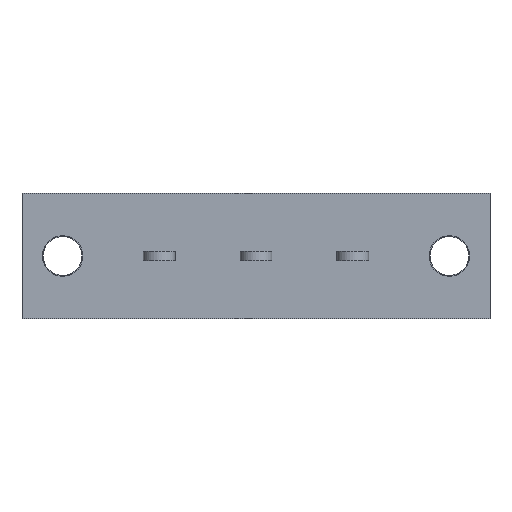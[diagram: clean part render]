
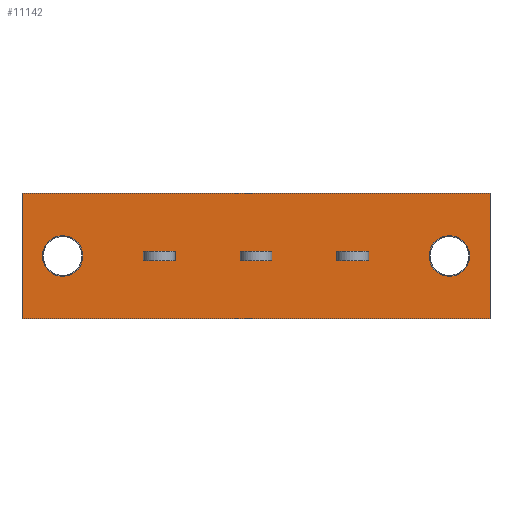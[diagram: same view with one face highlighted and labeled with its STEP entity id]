
A CAD part, front view. The second image highlights one B-rep face of the part: STEP entity #11142.
In plain terms, the highlighted planar face has unit normal (0, -1, 0).
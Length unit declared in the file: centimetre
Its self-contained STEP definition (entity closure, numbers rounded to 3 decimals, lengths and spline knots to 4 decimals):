
#925=VECTOR('',#12572,1.);
#1055=VECTOR('',#12870,1.);
#1059=VECTOR('',#12881,1.);
#1062=VECTOR('',#12897,1.);
#1063=VECTOR('',#12899,1.);
#1079=VECTOR('',#12924,1.);
#1080=VECTOR('',#12925,1.);
#1081=VECTOR('',#12926,1.);
#1082=VECTOR('',#12927,1.);
#1083=VECTOR('',#12928,1.);
#1084=VECTOR('',#12929,1.);
#1085=VECTOR('',#12930,1.);
#1086=VECTOR('',#12931,1.);
#1087=VECTOR('',#12932,1.);
#1088=VECTOR('',#12933,1.);
#1089=VECTOR('',#12934,1.);
#2223=LINE('',#15729,#925);
#2353=LINE('',#16137,#1055);
#2357=LINE('',#16149,#1059);
#2360=LINE('',#16161,#1062);
#2361=LINE('',#16164,#1063);
#2377=LINE('',#16203,#1079);
#2378=LINE('',#16206,#1080);
#2379=LINE('',#16208,#1081);
#2380=LINE('',#16210,#1082);
#2381=LINE('',#16211,#1083);
#2382=LINE('',#16214,#1084);
#2383=LINE('',#16216,#1085);
#2384=LINE('',#16218,#1086);
#2385=LINE('',#16219,#1087);
#2386=LINE('',#16221,#1088);
#2387=LINE('',#16223,#1089);
#3488=VERTEX_POINT('',#15727);
#3490=VERTEX_POINT('',#15730);
#3496=VERTEX_POINT('',#15744);
#3618=VERTEX_POINT('',#16138);
#3619=VERTEX_POINT('',#16139);
#3622=VERTEX_POINT('',#16150);
#3623=VERTEX_POINT('',#16162);
#3640=VERTEX_POINT('',#16202);
#3641=VERTEX_POINT('',#16204);
#3642=VERTEX_POINT('',#16205);
#3643=VERTEX_POINT('',#16207);
#3644=VERTEX_POINT('',#16209);
#3645=VERTEX_POINT('',#16212);
#3646=VERTEX_POINT('',#16213);
#3647=VERTEX_POINT('',#16215);
#3648=VERTEX_POINT('',#16217);
#3649=VERTEX_POINT('',#16220);
#3650=VERTEX_POINT('',#16222);
#4268=CIRCLE('',#18795,0.21);
#4309=CIRCLE('',#18922,0.21);
#4921=EDGE_CURVE('',#3490,#3488,#2223,.T.);
#4928=EDGE_CURVE('',#3496,#3496,#4268,.T.);
#5102=EDGE_CURVE('',#3618,#3619,#2353,.T.);
#5108=EDGE_CURVE('',#3622,#3618,#2357,.T.);
#5115=EDGE_CURVE('',#3623,#3622,#2360,.T.);
#5117=EDGE_CURVE('',#3619,#3623,#2361,.T.);
#5135=EDGE_CURVE('',#3640,#3640,#4309,.T.);
#5136=EDGE_CURVE('',#3641,#3642,#2377,.T.);
#5137=EDGE_CURVE('',#3642,#3643,#2378,.T.);
#5138=EDGE_CURVE('',#3643,#3644,#2379,.T.);
#5139=EDGE_CURVE('',#3644,#3641,#2380,.T.);
#5140=EDGE_CURVE('',#3645,#3646,#2381,.T.);
#5141=EDGE_CURVE('',#3646,#3647,#2382,.T.);
#5142=EDGE_CURVE('',#3647,#3648,#2383,.T.);
#5143=EDGE_CURVE('',#3648,#3645,#2384,.T.);
#5144=EDGE_CURVE('',#3649,#3490,#2385,.T.);
#5145=EDGE_CURVE('',#3650,#3488,#2386,.T.);
#5146=EDGE_CURVE('',#3650,#3649,#2387,.T.);
#7516=ORIENTED_EDGE('',*,*,#4928,.T.);
#7517=ORIENTED_EDGE('',*,*,#5135,.T.);
#7518=ORIENTED_EDGE('',*,*,#5108,.F.);
#7519=ORIENTED_EDGE('',*,*,#5115,.F.);
#7520=ORIENTED_EDGE('',*,*,#5117,.F.);
#7521=ORIENTED_EDGE('',*,*,#5102,.F.);
#7522=ORIENTED_EDGE('',*,*,#5136,.T.);
#7523=ORIENTED_EDGE('',*,*,#5137,.T.);
#7524=ORIENTED_EDGE('',*,*,#5138,.T.);
#7525=ORIENTED_EDGE('',*,*,#5139,.T.);
#7526=ORIENTED_EDGE('',*,*,#5140,.T.);
#7527=ORIENTED_EDGE('',*,*,#5141,.T.);
#7528=ORIENTED_EDGE('',*,*,#5142,.T.);
#7529=ORIENTED_EDGE('',*,*,#5143,.T.);
#7530=ORIENTED_EDGE('',*,*,#5144,.T.);
#7531=ORIENTED_EDGE('',*,*,#4921,.T.);
#7532=ORIENTED_EDGE('',*,*,#5145,.F.);
#7533=ORIENTED_EDGE('',*,*,#5146,.T.);
#9761=EDGE_LOOP('',(#7516));
#9762=EDGE_LOOP('',(#7517));
#9763=EDGE_LOOP('',(#7518,#7519,#7520,#7521));
#9764=EDGE_LOOP('',(#7522,#7523,#7524,#7525));
#9765=EDGE_LOOP('',(#7526,#7527,#7528,#7529));
#9766=EDGE_LOOP('',(#7530,#7531,#7532,#7533));
#10469=FACE_BOUND('',#9761,.T.);
#10470=FACE_BOUND('',#9762,.T.);
#10471=FACE_BOUND('',#9763,.T.);
#10472=FACE_BOUND('',#9764,.T.);
#10473=FACE_BOUND('',#9765,.T.);
#10474=FACE_BOUND('',#9766,.T.);
#11142=ADVANCED_FACE('',(#10469,#10470,#10471,#10472,#10473,#10474),#11706,
 .T.);
#11706=PLANE('',#18921);
#12572=DIRECTION('',(0.,0.,1.));
#12581=DIRECTION('',(0.,1.,0.));
#12582=DIRECTION('',(0.21,0.,0.));
#12870=DIRECTION('',(0.,0.,1.));
#12881=DIRECTION('',(1.,0.,0.));
#12897=DIRECTION('',(0.,0.,-1.));
#12899=DIRECTION('',(-1.,0.,0.));
#12921=DIRECTION('',(0.,-1.,0.));
#12922=DIRECTION('',(0.,1.,0.));
#12923=DIRECTION('',(0.21,0.,0.));
#12924=DIRECTION('',(-1.,0.,0.));
#12925=DIRECTION('',(0.,0.,1.));
#12926=DIRECTION('',(1.,0.,0.));
#12927=DIRECTION('',(0.,0.,-1.));
#12928=DIRECTION('',(-1.,0.,0.));
#12929=DIRECTION('',(0.,0.,1.));
#12930=DIRECTION('',(1.,0.,0.));
#12931=DIRECTION('',(0.,0.,-1.));
#12932=DIRECTION('',(1.,0.,0.));
#12933=DIRECTION('',(1.,0.,0.));
#12934=DIRECTION('',(0.,0.,-1.));
#15727=CARTESIAN_POINT('',(3.,0.,0.65));
#15729=CARTESIAN_POINT('',(3.,0.,0.65));
#15730=CARTESIAN_POINT('',(3.,0.,-0.65));
#15743=CARTESIAN_POINT('',(2.58,0.,0.));
#15744=CARTESIAN_POINT('',(2.37,0.,0.));
#16137=CARTESIAN_POINT('',(-0.255,0.,0.));
#16138=CARTESIAN_POINT('',(-0.255,0.,-0.05));
#16139=CARTESIAN_POINT('',(-0.255,0.,0.05));
#16149=CARTESIAN_POINT('',(-0.63,0.,-0.05));
#16150=CARTESIAN_POINT('',(-0.585,0.,-0.05));
#16161=CARTESIAN_POINT('',(-0.585,0.,0.));
#16162=CARTESIAN_POINT('',(-0.585,0.,0.05));
#16164=CARTESIAN_POINT('',(-0.63,0.,0.05));
#16200=CARTESIAN_POINT('',(0.,0.,0.));
#16201=CARTESIAN_POINT('',(-1.42,0.,0.));
#16202=CARTESIAN_POINT('',(-1.63,0.,0.));
#16203=CARTESIAN_POINT('',(0.79,0.,-0.05));
#16204=CARTESIAN_POINT('',(1.745,0.,-0.05));
#16205=CARTESIAN_POINT('',(1.415,0.,-0.05));
#16206=CARTESIAN_POINT('',(1.415,0.,0.));
#16207=CARTESIAN_POINT('',(1.415,0.,0.05));
#16208=CARTESIAN_POINT('',(0.79,0.,0.05));
#16209=CARTESIAN_POINT('',(1.745,0.,0.05));
#16210=CARTESIAN_POINT('',(1.745,0.,0.));
#16211=CARTESIAN_POINT('',(0.29,0.,-0.05));
#16212=CARTESIAN_POINT('',(0.745,0.,-0.05));
#16213=CARTESIAN_POINT('',(0.415,0.,-0.05));
#16214=CARTESIAN_POINT('',(0.415,0.,0.));
#16215=CARTESIAN_POINT('',(0.415,0.,0.05));
#16216=CARTESIAN_POINT('',(0.29,0.,0.05));
#16217=CARTESIAN_POINT('',(0.745,0.,0.05));
#16218=CARTESIAN_POINT('',(0.745,0.,0.));
#16219=CARTESIAN_POINT('',(-1.84,0.,-0.65));
#16220=CARTESIAN_POINT('',(-1.84,0.,-0.65));
#16221=CARTESIAN_POINT('',(0.,0.,0.65));
#16222=CARTESIAN_POINT('',(-1.84,0.,0.65));
#16223=CARTESIAN_POINT('',(-1.84,0.,0.65));
#18795=AXIS2_PLACEMENT_3D('',#15743,#12581,#12582);
#18921=AXIS2_PLACEMENT_3D('',#16200,#12921,$);
#18922=AXIS2_PLACEMENT_3D('',#16201,#12922,#12923);
